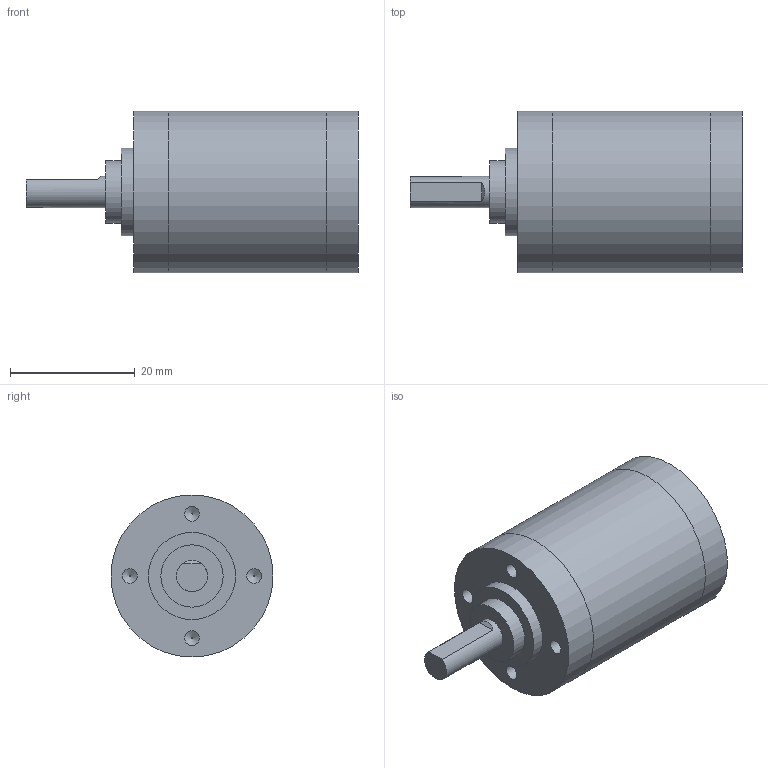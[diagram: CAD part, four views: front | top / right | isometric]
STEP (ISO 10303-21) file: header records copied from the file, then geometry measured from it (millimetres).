
FILE_DESCRIPTION(('Bauteilbeschreibung','HiCAD-Model','HiCAD-STEP-TRANSLATION','Bauteilbeschreibung'),'2;1');
FILE_NAME('P:/PRIVAT/BJA/KATOLOG_STEP_DATEIEN/GP26B/GP26B_2-STUFIG.STP','2004-12-08T13:49:32+00:00',('Konstrukteur'),('Konstrukteur Firma GmbH'),'HiCAD2 V1102 STEP 20.9.2001','HiCAD2 V1102','confidential');
FILE_SCHEMA(('AUTOMOTIVE_DESIGN { 1 2 10303 214 0 1 1 1 }'));
Length unit declared in the file: millimetre
Products named in the file (2): A01_000X; A010000X
Assembly tree (1 placements, depth 2):
  A01_000X
    A010000X
Bounding box: 53.3 x 26 x 26 mm (x, y, z)
Volume: 19035.6 mm3; surface area: 4889.1 mm2
Topology: 1 solids, 1 shells, 33 faces, 61 edges, 41 vertices
Faces by surface type: plane 15, cylinder 14, cone 4
Full cylindrical faces by diameter (mm): 2.1 x3, 2.39 x4, 5 x1, 10 x2, 14 x1, 26 x3
Entity records: 1158 total; most frequent: DIRECTION 136, CARTESIAN_POINT 103, ORIENTED_EDGE 70, COLOUR_RGB 69, PRESENTATION_STYLE_ASSIGNMENT 69, OVER_RIDING_STYLED_ITEM 68, AXIS2_PLACEMENT_3D 66, EDGE_LOOP 62
